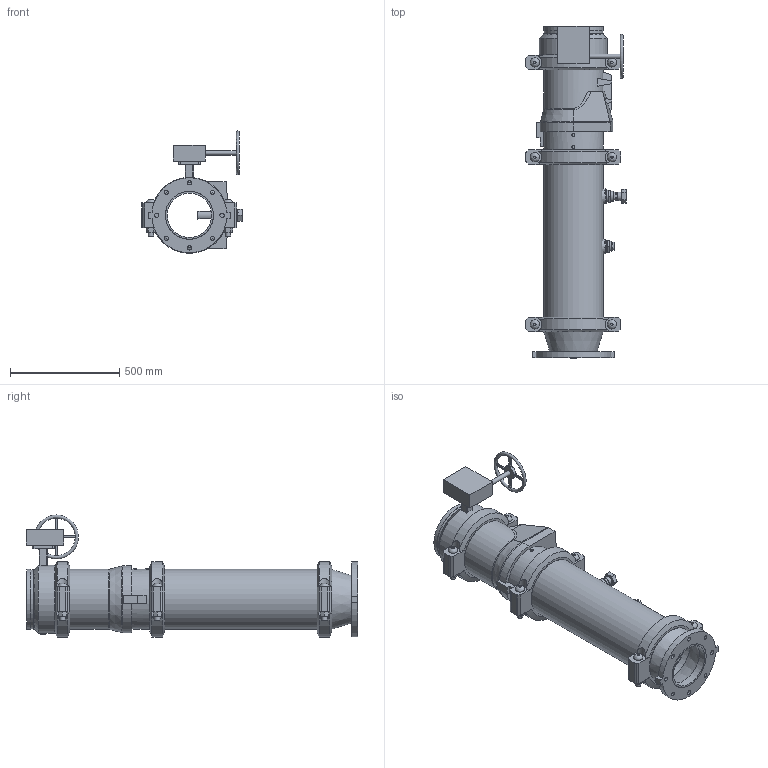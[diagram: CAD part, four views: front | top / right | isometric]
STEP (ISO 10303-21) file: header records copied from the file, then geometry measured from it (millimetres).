
FILE_DESCRIPTION(/* description */ ('VIC DVI PUMP DROP VERT S/380 (OGSxFLG) (S/924-1.25)','CAx-IF Rec.Pracs.---Representation and Presentation of Product Manufacturing Information (PMI)---4.0---2014-10-13'),/* implementation_level */ '2;1');
FILE_NAME(/* name */ 'C:\Users\Public\Documents\Victaulic.Temp\A765\Victaulic_IPS_Vertical DVI_CL 150_Series 380 (OGSxFLG)_924 (1.25)_10.0x08.0 (250x200).stp',/* time_stamp */ '2022-07-25T11:14:21+02:00',/* author */ ('Vjadhav'),/* organization */ ('Victaulic'),/* preprocessor_version */ 'ST-DEVELOPER v18',/* originating_system */ 'Autodesk Inventor 2020',/* authorisation */ '');
FILE_SCHEMA (('AP242_MANAGED_MODEL_BASED_3D_ENGINEERING_MIM_LF { 1 0 10303 442 1 1 4 }'));
Length unit declared in the file: inch
Products named in the file (9): 380_924 (1.25)-10.0x08.0; 741-08.0; 050-10.0x08.0; Pipe-10.0; 779-10.0; 923-10.0x0.75; 924-10.0x01.25; 761-10.0; 077-10.0
Assembly tree (10 placements, depth 2):
  380_924 (1.25)-10.0x08.0
    741-08.0
    050-10.0x08.0
    Pipe-10.0
    779-10.0
    923-10.0x0.75
    924-10.0x01.25
    761-10.0
    077-10.0  x3
Bounding box: 458.72 x 1517.4 x 558.01 mm (x, y, z)
Volume: 29500365 mm3; surface area: 3982954.5 mm2
Topology: 10 solids, 18 shells, 506 faces, 1266 edges, 863 vertices
Faces by surface type: plane 308, cylinder 163, cone 20, bspline 8, torus 7
Full cylindrical faces by diameter (mm): 10.922 x4, 12.7 x1, 13.716 x4, 19.05 x8, 20.066 x1, 21.336 x2, 22.86 x1, 25.4 x12, 26.67 x2, 27.432 x6, 38.608 x1, 42.164 x1, 45.974 x4, 48.514 x1, 55.626 x2, 63.079 x1, 70.104 x1, 76.2 x1, 202.717 x1, 214.401 x1, 219.075 x3, 254.508 x4, 264.16 x3, 268.275 x7, 273.05 x19, 311.15 x1
Entity records: 13129 total; most frequent: CARTESIAN_POINT 2639, DIRECTION 2133, ORIENTED_EDGE 1952, EDGE_CURVE 976, AXIS2_PLACEMENT_3D 811, VERTEX_POINT 667, LINE 511, VECTOR 511
